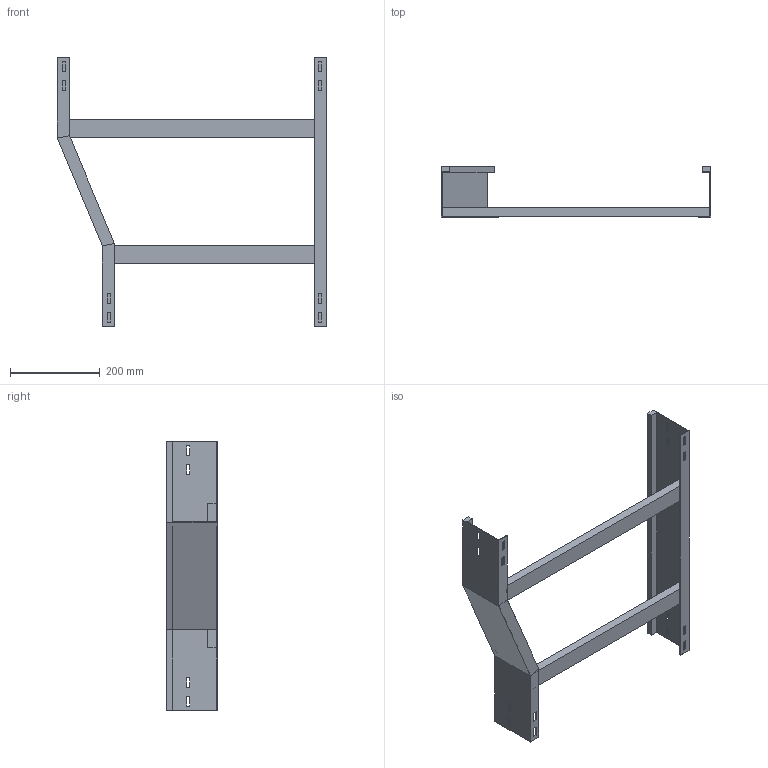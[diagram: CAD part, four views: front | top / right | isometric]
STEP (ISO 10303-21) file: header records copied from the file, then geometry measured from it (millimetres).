
FILE_DESCRIPTION (( 'STEP AP214' ), '1' );
FILE_NAME ('B2X21B5J600XX.step', '2025-09-02T17:17:20', ( '' ), ( '' ), 'SwSTEP 2.0', 'SolidWorks 2023', '' );
FILE_SCHEMA (( 'AUTOMOTIVE_DESIGN' ));
Length unit declared in the file: millimetre
Products named in the file (5): TRAVERSINO_600; SPONDA RID. DX 600-500_H112.5; TRAVERSINO_500; B2X21B5J600XX; SPONDA DRITTA_H112.5
Assembly tree (4 placements, depth 2):
  B2X21B5J600XX
    SPONDA RID. DX 600-500_H112.5
    TRAVERSINO_500
    TRAVERSINO_600
    SPONDA DRITTA_H112.5
Bounding box: 600 x 112.5 x 600 mm (x, y, z)
Volume: 1449332 mm3; surface area: 513588 mm2
Topology: 4 solids, 4 shells, 112 faces, 296 edges, 192 vertices
Faces by surface type: plane 112
Entity records: 3590 total; most frequent: CARTESIAN_POINT 607, ORIENTED_EDGE 592, DIRECTION 534, LINE 296, VECTOR 296, EDGE_CURVE 296, VERTEX_POINT 192, EDGE_LOOP 144
